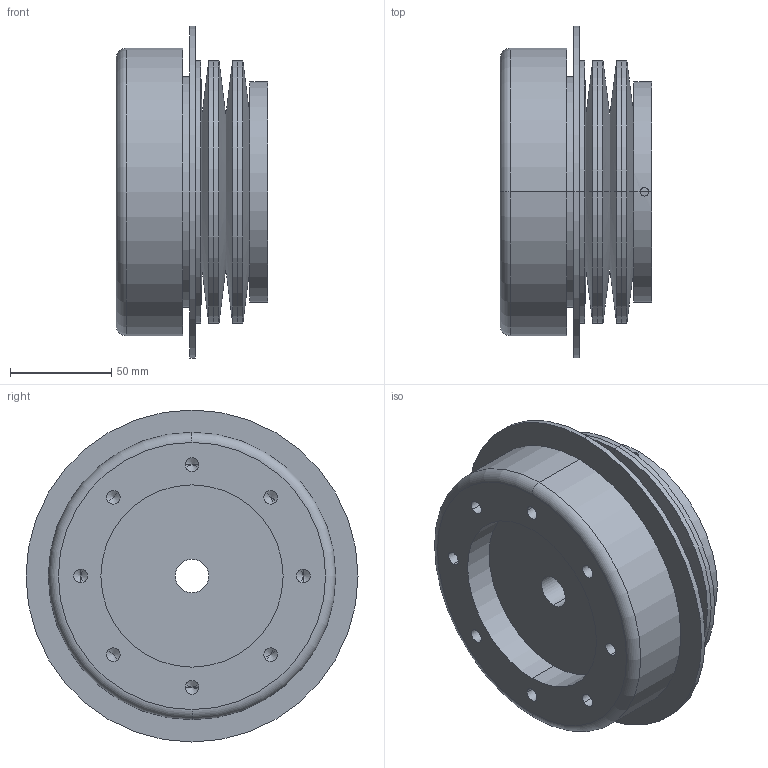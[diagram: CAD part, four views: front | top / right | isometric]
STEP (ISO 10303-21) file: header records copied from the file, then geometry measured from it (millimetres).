
FILE_DESCRIPTION (( 'STEP AP203' ), '1' );
FILE_NAME ('ST8C-15A.STEP', '2009-09-30T17:50:16', ( 'USER' ), ( 'HOME' ), 'SwSTEP 2.0', 'SolidWorks 2007', '' );
FILE_SCHEMA (( 'CONFIG_CONTROL_DESIGN' ));
Length unit declared in the file: millimetre
Products named in the file (1): ST8C-15A
Bounding box: 75 x 164 x 164 mm (x, y, z)
Volume: 809981.1 mm3; surface area: 201308.6 mm2
Topology: 7 solids, 7 shells, 102 faces, 230 edges, 126 vertices
Faces by surface type: cylinder 56, cone 36, plane 8, torus 2
Entity records: 3019 total; most frequent: CARTESIAN_POINT 679, DIRECTION 516, ORIENTED_EDGE 428, EDGE_CURVE 214, AXIS2_PLACEMENT_3D 211, VERTEX_POINT 126, EDGE_LOOP 120, CIRCLE 108
